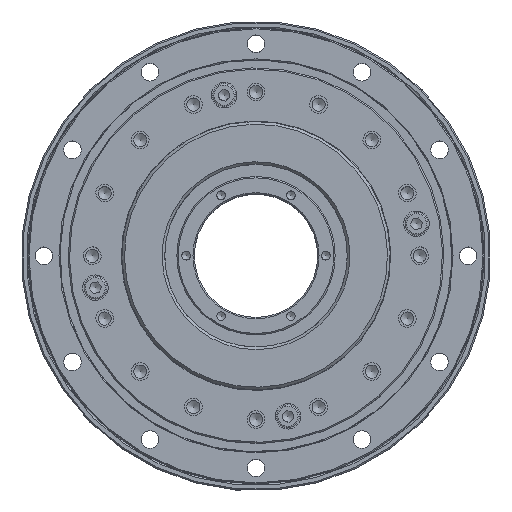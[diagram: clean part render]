
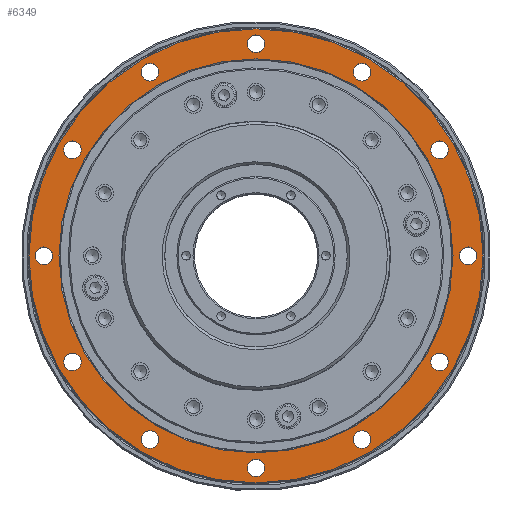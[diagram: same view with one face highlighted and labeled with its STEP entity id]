
A CAD part, top view. The second image highlights one B-rep face of the part: STEP entity #6349.
In plain terms, the highlighted planar face has unit normal (0, 0, 1).
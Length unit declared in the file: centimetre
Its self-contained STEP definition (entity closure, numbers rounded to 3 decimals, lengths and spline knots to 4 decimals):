
#1127=FACE_BOUND($,#2396,.T.);
#1128=FACE_BOUND($,#2397,.T.);
#1129=FACE_BOUND($,#2398,.T.);
#1130=FACE_BOUND($,#2399,.T.);
#1131=FACE_BOUND($,#2400,.T.);
#1132=FACE_BOUND($,#2401,.T.);
#1133=FACE_BOUND($,#2402,.T.);
#1134=FACE_BOUND($,#2403,.T.);
#1135=FACE_BOUND($,#2404,.T.);
#1136=FACE_BOUND($,#2405,.T.);
#1137=FACE_BOUND($,#2406,.T.);
#1138=FACE_BOUND($,#2407,.T.);
#1139=FACE_BOUND($,#2408,.T.);
#1140=FACE_BOUND($,#2409,.T.);
#2396=EDGE_LOOP($,(#5251));
#2397=EDGE_LOOP($,(#5252));
#2398=EDGE_LOOP($,(#5253));
#2399=EDGE_LOOP($,(#5254));
#2400=EDGE_LOOP($,(#5255));
#2401=EDGE_LOOP($,(#5256));
#2402=EDGE_LOOP($,(#5257));
#2403=EDGE_LOOP($,(#5258));
#2404=EDGE_LOOP($,(#5259));
#2405=EDGE_LOOP($,(#5260));
#2406=EDGE_LOOP($,(#5261));
#2407=EDGE_LOOP($,(#5262));
#2408=EDGE_LOOP($,(#5263));
#2409=EDGE_LOOP($,(#5264));
#3141=CIRCLE($,#7163,0.33);
#3143=CIRCLE($,#7166,0.33);
#3144=CIRCLE($,#7168,0.33);
#3145=CIRCLE($,#7170,0.33);
#3146=CIRCLE($,#7172,0.33);
#3147=CIRCLE($,#7174,0.33);
#3148=CIRCLE($,#7176,0.33);
#3149=CIRCLE($,#7178,0.33);
#3150=CIRCLE($,#7180,0.33);
#3151=CIRCLE($,#7182,0.33);
#3152=CIRCLE($,#7184,0.33);
#3153=CIRCLE($,#7186,0.33);
#3155=CIRCLE($,#7190,7.34);
#3156=CIRCLE($,#7192,8.46);
#3668=VERTEX_POINT($,#10768);
#3670=VERTEX_POINT($,#10773);
#3671=VERTEX_POINT($,#10776);
#3672=VERTEX_POINT($,#10779);
#3673=VERTEX_POINT($,#10782);
#3674=VERTEX_POINT($,#10785);
#3675=VERTEX_POINT($,#10788);
#3676=VERTEX_POINT($,#10791);
#3677=VERTEX_POINT($,#10794);
#3678=VERTEX_POINT($,#10797);
#3679=VERTEX_POINT($,#10800);
#3680=VERTEX_POINT($,#10803);
#3682=VERTEX_POINT($,#10809);
#3683=VERTEX_POINT($,#10812);
#4285=EDGE_CURVE($,#3668,#3668,#3141,.T.);
#4287=EDGE_CURVE($,#3670,#3670,#3143,.T.);
#4288=EDGE_CURVE($,#3671,#3671,#3144,.T.);
#4289=EDGE_CURVE($,#3672,#3672,#3145,.T.);
#4290=EDGE_CURVE($,#3673,#3673,#3146,.T.);
#4291=EDGE_CURVE($,#3674,#3674,#3147,.T.);
#4292=EDGE_CURVE($,#3675,#3675,#3148,.T.);
#4293=EDGE_CURVE($,#3676,#3676,#3149,.T.);
#4294=EDGE_CURVE($,#3677,#3677,#3150,.T.);
#4295=EDGE_CURVE($,#3678,#3678,#3151,.T.);
#4296=EDGE_CURVE($,#3679,#3679,#3152,.T.);
#4297=EDGE_CURVE($,#3680,#3680,#3153,.T.);
#4299=EDGE_CURVE($,#3682,#3682,#3155,.T.);
#4300=EDGE_CURVE($,#3683,#3683,#3156,.T.);
#5251=ORIENTED_EDGE($,*,*,#4285,.T.);
#5252=ORIENTED_EDGE($,*,*,#4287,.T.);
#5253=ORIENTED_EDGE($,*,*,#4288,.T.);
#5254=ORIENTED_EDGE($,*,*,#4289,.T.);
#5255=ORIENTED_EDGE($,*,*,#4290,.T.);
#5256=ORIENTED_EDGE($,*,*,#4291,.T.);
#5257=ORIENTED_EDGE($,*,*,#4292,.T.);
#5258=ORIENTED_EDGE($,*,*,#4293,.T.);
#5259=ORIENTED_EDGE($,*,*,#4294,.T.);
#5260=ORIENTED_EDGE($,*,*,#4295,.T.);
#5261=ORIENTED_EDGE($,*,*,#4296,.T.);
#5262=ORIENTED_EDGE($,*,*,#4297,.T.);
#5263=ORIENTED_EDGE($,*,*,#4300,.F.);
#5264=ORIENTED_EDGE($,*,*,#4299,.F.);
#5960=PLANE($,#7191);
#6349=ADVANCED_FACE($,(#1127,#1128,#1129,#1130,#1131,#1132,#1133,#1134,
#1135,#1136,#1137,#1138,#1139,#1140),#5960,.T.);
#7163=AXIS2_PLACEMENT_3D($,#10769,#8770,#8771);
#7166=AXIS2_PLACEMENT_3D($,#10774,#8776,#8777);
#7168=AXIS2_PLACEMENT_3D($,#10777,#8780,#8781);
#7170=AXIS2_PLACEMENT_3D($,#10780,#8784,#8785);
#7172=AXIS2_PLACEMENT_3D($,#10783,#8788,#8789);
#7174=AXIS2_PLACEMENT_3D($,#10786,#8792,#8793);
#7176=AXIS2_PLACEMENT_3D($,#10789,#8796,#8797);
#7178=AXIS2_PLACEMENT_3D($,#10792,#8800,#8801);
#7180=AXIS2_PLACEMENT_3D($,#10795,#8804,#8805);
#7182=AXIS2_PLACEMENT_3D($,#10798,#8808,#8809);
#7184=AXIS2_PLACEMENT_3D($,#10801,#8812,#8813);
#7186=AXIS2_PLACEMENT_3D($,#10804,#8816,#8817);
#7190=AXIS2_PLACEMENT_3D($,#10810,#8824,#8825);
#7191=AXIS2_PLACEMENT_3D($,#10811,#8826,#8827);
#7192=AXIS2_PLACEMENT_3D($,#10813,#8828,#8829);
#8770=DIRECTION('center_axis',(0.,0.,-1.));
#8771=DIRECTION('ref_axis',(1.,0.,0.));
#8776=DIRECTION('center_axis',(0.,0.,-1.));
#8777=DIRECTION('ref_axis',(1.,0.,0.));
#8780=DIRECTION('center_axis',(0.,0.,-1.));
#8781=DIRECTION('ref_axis',(1.,0.,0.));
#8784=DIRECTION('center_axis',(0.,0.,-1.));
#8785=DIRECTION('ref_axis',(1.,0.,0.));
#8788=DIRECTION('center_axis',(0.,0.,-1.));
#8789=DIRECTION('ref_axis',(1.,0.,0.));
#8792=DIRECTION('center_axis',(0.,0.,-1.));
#8793=DIRECTION('ref_axis',(1.,0.,0.));
#8796=DIRECTION('center_axis',(0.,0.,-1.));
#8797=DIRECTION('ref_axis',(1.,0.,0.));
#8800=DIRECTION('center_axis',(0.,0.,-1.));
#8801=DIRECTION('ref_axis',(1.,0.,0.));
#8804=DIRECTION('center_axis',(0.,0.,-1.));
#8805=DIRECTION('ref_axis',(1.,0.,0.));
#8808=DIRECTION('center_axis',(0.,0.,-1.));
#8809=DIRECTION('ref_axis',(1.,0.,0.));
#8812=DIRECTION('center_axis',(0.,0.,-1.));
#8813=DIRECTION('ref_axis',(1.,0.,0.));
#8816=DIRECTION('center_axis',(0.,0.,-1.));
#8817=DIRECTION('ref_axis',(1.,0.,0.));
#8824=DIRECTION('center_axis',(0.,0.,1.));
#8825=DIRECTION('ref_axis',(0.,1.,0.));
#8826=DIRECTION('center_axis',(0.,0.,1.));
#8827=DIRECTION('ref_axis',(-1.,0.,0.));
#8828=DIRECTION('center_axis',(0.,0.,-1.));
#8829=DIRECTION('ref_axis',(0.,1.,0.));
#10768=CARTESIAN_POINT('',(3.62,-6.8416,2.75));
#10769=CARTESIAN_POINT('Origin',(3.95,-6.8416,2.75));
#10773=CARTESIAN_POINT('',(-4.28,-6.8416,2.75));
#10774=CARTESIAN_POINT('Origin',(-3.95,-6.8416,2.75));
#10776=CARTESIAN_POINT('',(-8.23,0.,2.75));
#10777=CARTESIAN_POINT('Origin',(-7.9,0.,2.75));
#10779=CARTESIAN_POINT('',(-4.28,6.8416,2.75));
#10780=CARTESIAN_POINT('Origin',(-3.95,6.8416,2.75));
#10782=CARTESIAN_POINT('',(3.62,6.8416,2.75));
#10783=CARTESIAN_POINT('Origin',(3.95,6.8416,2.75));
#10785=CARTESIAN_POINT('',(7.57,0.,2.75));
#10786=CARTESIAN_POINT('Origin',(7.9,0.,2.75));
#10788=CARTESIAN_POINT('',(6.5116,3.95,2.75));
#10789=CARTESIAN_POINT('Origin',(6.8416,3.95,2.75));
#10791=CARTESIAN_POINT('',(-0.33,7.9,2.75));
#10792=CARTESIAN_POINT('Origin',(0.,7.9,2.75));
#10794=CARTESIAN_POINT('',(-7.1716,3.95,2.75));
#10795=CARTESIAN_POINT('Origin',(-6.8416,3.95,2.75));
#10797=CARTESIAN_POINT('',(-7.1716,-3.95,2.75));
#10798=CARTESIAN_POINT('Origin',(-6.8416,-3.95,2.75));
#10800=CARTESIAN_POINT('',(-0.33,-7.9,2.75));
#10801=CARTESIAN_POINT('Origin',(0.,-7.9,2.75));
#10803=CARTESIAN_POINT('',(6.5116,-3.95,2.75));
#10804=CARTESIAN_POINT('Origin',(6.8416,-3.95,2.75));
#10809=CARTESIAN_POINT('',(0.,-7.34,2.75));
#10810=CARTESIAN_POINT('Origin',(0.,0.,2.75));
#10811=CARTESIAN_POINT('Origin',(0.,-8.5,2.75));
#10812=CARTESIAN_POINT('',(0.,-8.46,2.75));
#10813=CARTESIAN_POINT('Origin',(0.,0.,2.75));
